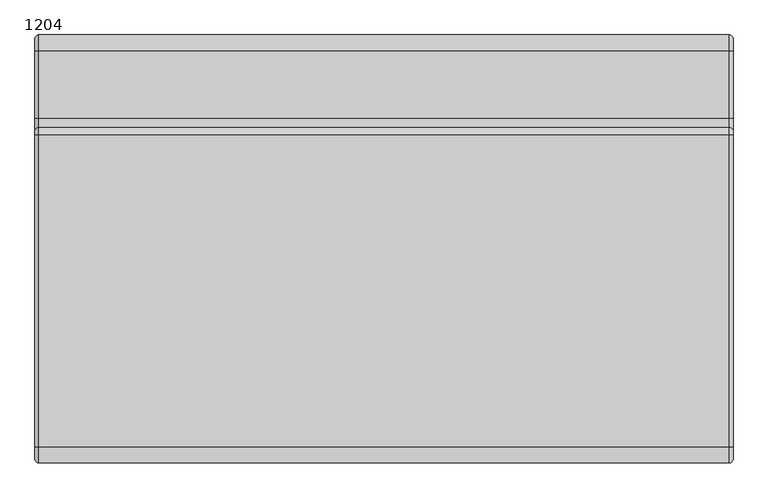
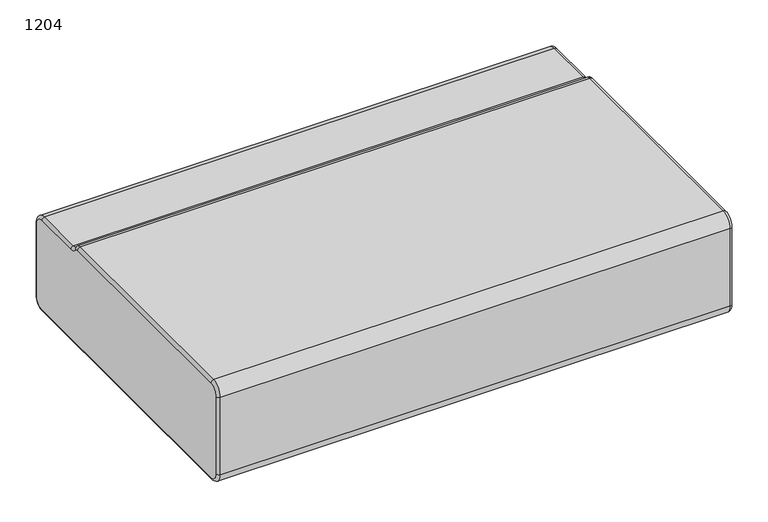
"""IFC4 building model written with IfcOpenShell, lengths in millimetres: furniture geometry, Laguna-Modular-Straight-ERG : 1204."""

from ifc_helpers import new_model, si_unit, point, frame, origin, place, context, project, spatial, polyline, circle_curve, ellipse_curve, trimmed, source, transform, mapped, element, save
from ifc_brep_helpers import plane_surface, cylinder_surface, revolved_surface, advanced_brep


def furniture_1204_9d9a843b(model_context):
    return source(origin(), model_context, "Body", "AdvancedBrep", [
        advanced_brep(
        [(-3545.1421763, 1208.7558502, 209.55), (-3545.1421763, 1227.8058502, 228.6), (-3545.1421763, 1227.8058502, 393.7), (-3545.1421763, 1208.7558502, 412.75), (-3545.1421763, 1100.3633388, 412.75), (-3545.1421763, 1081.0629451, 422.2976649), (-3545.1421763, 1074.6905694, 425.45), (-3545.1421763, 573.7558502, 425.45), (-3545.1421763, 554.7058502, 406.4), (-3545.1421763, 554.7058502, 228.6), (-3545.1421763, 573.755851, 209.55), (-4662.7421763, 573.7558502, 209.55), (-4662.7421763, 554.7058502, 228.6), (-4662.7421763, 554.7058502, 406.4), (-4662.7421763, 573.7558502, 425.45), (-4662.7421763, 1074.6905694, 425.45), (-4662.7421763, 1081.0629451, 422.2976649), (-4662.7421763, 1100.3633388, 412.75), (-4662.7421763, 1208.7558502, 412.75), (-4662.7421763, 1227.8058502, 393.7), (-4662.7421763, 1227.8058502, 228.6), (-4662.7421763, 1208.7558502, 209.55), (-3551.4921763, 1208.7558502, 203.2), (-3551.4921763, 1234.1558502, 228.6), (-3551.4921763, 1234.1558502, 393.7), (-3551.4921763, 1208.7558502, 419.1), (-3551.4921763, 1100.3633388, 419.1), (-3551.4921763, 1086.1103079, 426.1507973), (-3551.4921763, 1074.6905694, 431.8), (-3551.4921763, 573.7558502, 431.8), (-3551.4921763, 548.3558502, 406.4), (-3551.4921763, 548.3558502, 228.6), (-3551.4921763, 573.7558502, 203.2), (-4656.3921763, 573.7558502, 203.2), (-4656.3921763, 1208.7558502, 203.2), (-4656.3921763, 1234.1558502, 228.6), (-4656.3921763, 1234.1558502, 393.7), (-4656.3921763, 1208.7558502, 419.1), (-4656.3921763, 1100.3633388, 419.1), (-4656.3921763, 1086.1103079, 426.1507973), (-4656.3921763, 1074.6905694, 431.8), (-4656.3921763, 573.7558502, 431.8), (-4656.3921763, 548.3558502, 406.4), (-4656.3921763, 548.3558502, 228.6)],
        [
            (0, 1, circle_curve(frame((-3545.1421763, 1208.7558502, 228.6), z_axis=(1.0, 0.0, 0.0), x_axis=(0.0, 0.0, -1.0)), 19.05)),
            (1, 2),
            (2, 3, circle_curve(frame((-3545.1421763, 1208.7558502, 393.7), z_axis=(1.0, 0.0, 0.0), x_axis=(0.0, 1.0, 0.0)), 19.05)),
            (3, 4),
            (4, 5, circle_curve(frame((-3545.1421763, 1100.3633388, 437.0314921), z_axis=(-1.0, 0.0, 0.0), x_axis=(0.0, 0.0, -1.0)), 24.2814921)),
            (5, 6, circle_curve(frame((-3545.1421763, 1074.6905694, 417.4330241), z_axis=(1.0, 0.0, 0.0), x_axis=(0.0, 0.7948602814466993, 0.6067924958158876)), 8.0169759)),
            (6, 7),
            (7, 8, circle_curve(frame((-3545.1421763, 573.7558502, 406.4), z_axis=(1.0, 0.0, 0.0), x_axis=(0.0, 0.0, 1.0)), 19.05)),
            (8, 9),
            (9, 10, circle_curve(frame((-3545.1421763, 573.7558502, 228.6), z_axis=(1.0, 0.0, 0.0), x_axis=(0.0, -1.0, 0.0)), 19.05)),
            (10, 0),
            (11, 12, circle_curve(frame((-4662.7421763, 573.7558502, 228.6), z_axis=(-1.0, 0.0, 0.0), x_axis=(0.0, -1.0, 0.0)), 19.05)),
            (12, 13),
            (13, 14, circle_curve(frame((-4662.7421763, 573.7558502, 406.4), z_axis=(-1.0, 0.0, 0.0), x_axis=(0.0, 0.0, 1.0)), 19.05)),
            (14, 15),
            (15, 16, circle_curve(frame((-4662.7421763, 1074.6905694, 417.4330241), z_axis=(-1.0, 0.0, 0.0), x_axis=(0.0, 0.7948602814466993, 0.6067924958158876)), 8.0169759)),
            (16, 17, circle_curve(frame((-4662.7421763, 1100.3633388, 437.0314921), z_axis=(1.0, 0.0, 0.0), x_axis=(0.0, 0.0, -1.0)), 24.2814921)),
            (17, 18),
            (18, 19, circle_curve(frame((-4662.7421763, 1208.7558502, 393.7), z_axis=(-1.0, 0.0, 0.0), x_axis=(0.0, 1.0, 0.0)), 19.05)),
            (19, 20),
            (20, 21, circle_curve(frame((-4662.7421763, 1208.7558502, 228.6), z_axis=(-1.0, 0.0, 0.0), x_axis=(0.0, 0.0, -1.0)), 19.05)),
            (21, 11),
            (0, 22, circle_curve(frame((-3551.4921763, 1208.7558502, 209.55), z_axis=(0.0, 1.0, 0.0), x_axis=(0.0, 0.0, 1.0)), 6.35)),
            (22, 23, circle_curve(frame((-3551.4921763, 1208.7558502, 228.6), z_axis=(1.0, 0.0, 0.0), x_axis=(0.0, 0.0, -1.0)), 25.4)),
            (23, 1, circle_curve(frame((-3551.4921763, 1227.8058502, 228.6), z_axis=(0.0, 0.0, -1.0), x_axis=(0.0, -1.0, 0.0)), 6.35)),
            (23, 24),
            (24, 2, circle_curve(frame((-3551.4921763, 1227.8058502, 393.7), z_axis=(0.0, 0.0, -1.0), x_axis=(0.0, -1.0, 0.0)), 6.35)),
            (24, 25, circle_curve(frame((-3551.4921763, 1208.7558502, 393.7), z_axis=(1.0, 0.0, 0.0), x_axis=(0.0, 1.0, 0.0)), 25.4)),
            (25, 3, circle_curve(frame((-3551.4921763, 1208.7558502, 412.75), z_axis=(0.0, 1.0, 0.0), x_axis=(0.0, 0.0, -1.0)), 6.35)),
            (25, 26),
            (26, 4, circle_curve(frame((-3551.4921763, 1100.3633388, 412.75), z_axis=(0.0, 1.0, 0.0), x_axis=(0.0, 0.0, -1.0)), 6.35)),
            (26, 27, circle_curve(frame((-3551.4921763, 1100.3633388, 437.0314921), z_axis=(-1.0, 0.0, 0.0), x_axis=(0.0, 0.0, -1.0)), 17.9314921)),
            (27, 5, circle_curve(frame((-3551.4921763, 1081.0629451, 422.2976649), z_axis=(0.0, 0.6067924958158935, -0.7948602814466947), x_axis=(0.0, -0.7948602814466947, -0.6067924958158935)), 6.35)),
            (27, 28, circle_curve(frame((-3551.4921763, 1074.6905694, 417.4330241), z_axis=(1.0, 0.0, 0.0), x_axis=(0.0, 0.7948602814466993, 0.6067924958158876)), 14.3669759)),
            (28, 6, circle_curve(frame((-3551.4921763, 1074.6905694, 425.45), z_axis=(0.0, 1.0, 0.0), x_axis=(0.0, 0.0, -1.0)), 6.35)),
            (28, 29),
            (29, 7, circle_curve(frame((-3551.4921763, 573.7558502, 425.45), z_axis=(0.0, 1.0, 0.0), x_axis=(0.0, 0.0, -1.0)), 6.35)),
            (29, 30, circle_curve(frame((-3551.4921763, 573.7558502, 406.4), z_axis=(1.0, 0.0, 0.0), x_axis=(0.0, 0.0, 1.0)), 25.4)),
            (30, 8, circle_curve(frame((-3551.4921763, 554.7058502, 406.4), z_axis=(0.0, 0.0, 1.0), x_axis=(0.0, 1.0, 0.0)), 6.35)),
            (30, 31),
            (31, 9, circle_curve(frame((-3551.4921763, 554.7058502, 228.6), z_axis=(0.0, 0.0, 1.0), x_axis=(0.0, 1.0, 0.0)), 6.35)),
            (31, 32, circle_curve(frame((-3551.4921763, 573.7558502, 228.6), z_axis=(1.0, 0.0, 0.0), x_axis=(0.0, -1.0, 0.0)), 25.4)),
            (32, 10, circle_curve(frame((-3551.4921763, 573.7558502, 209.55), z_axis=(0.0, -1.0, 0.0), x_axis=(0.0, 0.0, 1.0)), 6.35)),
            (32, 22),
            (32, 33),
            (33, 34),
            (34, 22),
            (34, 35, circle_curve(frame((-4656.3921763, 1208.7558502, 228.6), z_axis=(1.0, 0.0, 0.0), x_axis=(0.0, 1.0, 0.0)), 25.4)),
            (35, 23),
            (35, 36),
            (36, 24),
            (36, 37, circle_curve(frame((-4656.3921763, 1208.7558502, 393.7), z_axis=(1.0, 0.0, 0.0), x_axis=(0.0, 1.0, 0.0)), 25.4)),
            (37, 25),
            (37, 38),
            (38, 26),
            (38, 39, circle_curve(frame((-4656.3921763, 1100.3633388, 437.0314921), z_axis=(-1.0, 0.0, 0.0), x_axis=(0.0, 1.0, 0.0)), 17.9314921)),
            (39, 27),
            (39, 40, circle_curve(frame((-4656.3921763, 1074.6905694, 417.4330241), z_axis=(1.0, 0.0, 0.0), x_axis=(0.0, 1.0, 0.0)), 14.3669759)),
            (40, 28),
            (40, 41),
            (41, 29),
            (41, 42, circle_curve(frame((-4656.3921763, 573.7558502, 406.4), z_axis=(1.0, 0.0, 0.0), x_axis=(0.0, 1.0, 0.0)), 25.4)),
            (42, 30),
            (42, 43),
            (43, 31),
            (43, 33, circle_curve(frame((-4656.3921763, 573.7558502, 228.6), z_axis=(1.0, 0.0, 0.0), x_axis=(0.0, 1.0, 0.0)), 25.4)),
            (43, 12, circle_curve(frame((-4656.3921763, 554.7058502, 228.6), z_axis=(0.0, 0.0, -1.0), x_axis=(1.0, 0.0, 0.0)), 6.35)),
            (11, 33, circle_curve(frame((-4656.3921763, 573.7558502, 209.55), z_axis=(0.0, -1.0, 0.0), x_axis=(1.0, 0.0, 0.0)), 6.35)),
            (21, 34, circle_curve(frame((-4656.3921763, 1208.7558502, 209.55), z_axis=(0.0, -1.0, 0.0), x_axis=(1.0, 0.0, 0.0)), 6.35)),
            (20, 35, circle_curve(frame((-4656.3921763, 1227.8058502, 228.6), z_axis=(0.0, 0.0, -1.0), x_axis=(1.0, 0.0, 0.0)), 6.35)),
            (19, 36, circle_curve(frame((-4656.3921763, 1227.8058502, 393.7), z_axis=(0.0, 0.0, -1.0), x_axis=(1.0, 0.0, 0.0)), 6.35)),
            (18, 37, circle_curve(frame((-4656.3921763, 1208.7558502, 412.75), z_axis=(0.0, 1.0, 0.0), x_axis=(1.0, 0.0, 0.0)), 6.35)),
            (17, 38, circle_curve(frame((-4656.3921763, 1100.3633388, 412.75), z_axis=(0.0, 1.0, 0.0), x_axis=(1.0, 0.0, 0.0)), 6.35)),
            (16, 39, circle_curve(frame((-4656.3921763, 1081.0629451, 422.2976649), z_axis=(0.0, 0.6067924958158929, -0.7948602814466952), x_axis=(1.0, 0.0, 0.0)), 6.35)),
            (15, 40, circle_curve(frame((-4656.3921763, 1074.6905694, 425.45), z_axis=(0.0, 1.0, 0.0), x_axis=(1.0, 0.0, 0.0)), 6.35)),
            (14, 41, circle_curve(frame((-4656.3921763, 573.7558502, 425.45), z_axis=(0.0, 1.0, 0.0), x_axis=(1.0, 0.0, 0.0)), 6.35)),
            (13, 42, circle_curve(frame((-4656.3921763, 554.7058502, 406.4), z_axis=(0.0, 0.0, 1.0), x_axis=(1.0, 0.0, 0.0)), 6.35)),
        ],
        [
            plane_surface(frame((-3545.1421763, 1208.7558502, 209.55), z_axis=(1.0, 0.0, 0.0), x_axis=(0.0, 1.0, 0.0))),
            plane_surface(frame((-4662.7421763, 587.7103097, 425.45), z_axis=(-1.0, 0.0, 0.0), x_axis=(0.0, 1.0, 0.0))),
            revolved_surface(trimmed(ellipse_curve(frame((-3551.4921763, 1208.7558502, 209.55), z_axis=(0.0, -1.0, 0.0), x_axis=(0.0, 0.0, 1.0)), 6.35, 6.35), [point((-3551.4921763, 1208.7558502, 203.2))], [point((-3545.1421763, 1208.7558502, 209.55))], True, "CARTESIAN"), (-3551.4921763, 1208.7558502, 228.6), (1.0, 0.0, 0.0)),
            cylinder_surface(frame((-3551.4921763, 1227.8058502, 228.6), z_axis=(0.0, 0.0, -1.0), x_axis=(0.0, -1.0, 0.0)), 6.35),
            revolved_surface(trimmed(ellipse_curve(frame((-3551.4921763, 1227.8058502, 393.7), z_axis=(0.0, 0.0, -1.0), x_axis=(0.0, -1.0, 0.0)), 6.35, 6.35), [point((-3551.4921763, 1234.1558502, 393.7))], [point((-3545.1421763, 1227.8058502, 393.7))], True, "CARTESIAN"), (-3551.4921763, 1208.7558502, 393.7), (1.0, 0.0, 0.0)),
            cylinder_surface(frame((-3551.4921763, 1208.7558502, 412.75), z_axis=(0.0, 1.0, 0.0), x_axis=(0.0, 0.0, -1.0)), 6.35),
            revolved_surface(trimmed(ellipse_curve(frame((-3551.4921763, 1100.3633388, 412.75), z_axis=(0.0, 1.0, 0.0), x_axis=(0.0, 0.0, -1.0)), 6.35, 6.35), [point((-3551.4921763, 1100.3633388, 419.1))], [point((-3545.1421763, 1100.3633388, 412.75))], True, "CARTESIAN"), (-3551.4921763, 1100.3633388, 437.0314921), (-1.0, 0.0, 0.0)),
            revolved_surface(trimmed(ellipse_curve(frame((-3551.4921763, 1081.0629451, 422.2976649), z_axis=(0.0, 0.6067924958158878, -0.7948602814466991), x_axis=(0.0, -0.7948602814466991, -0.6067924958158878)), 6.35, 6.35), [point((-3551.4921763, 1086.1103079, 426.1507973))], [point((-3545.1421763, 1081.0629451, 422.2976649))], True, "CARTESIAN"), (-3551.4921763, 1074.6905694, 417.4330241), (1.0, 0.0, 0.0)),
            cylinder_surface(frame((-3551.4921763, 1074.6905694, 425.45), z_axis=(0.0, 1.0, 0.0), x_axis=(0.0, 0.0, -1.0)), 6.35),
            revolved_surface(trimmed(ellipse_curve(frame((-3551.4921763, 573.7558502, 425.45), z_axis=(0.0, 1.0, 0.0), x_axis=(0.0, 0.0, -1.0)), 6.35, 6.35), [point((-3551.4921763, 573.7558502, 431.8))], [point((-3545.1421763, 573.7558502, 425.45))], True, "CARTESIAN"), (-3551.4921763, 573.7558502, 406.4), (1.0, 0.0, 0.0)),
            cylinder_surface(frame((-3551.4921763, 554.7058502, 406.4), z_axis=(0.0, 0.0, 1.0), x_axis=(0.0, 1.0, 0.0)), 6.35),
            revolved_surface(trimmed(ellipse_curve(frame((-3551.4921763, 554.7058502, 228.6), z_axis=(0.0, 0.0, 1.0), x_axis=(0.0, 1.0, 0.0)), 6.35, 6.35), [point((-3551.4921763, 548.3558502, 228.6))], [point((-3545.1421763, 554.7058502, 228.6))], True, "CARTESIAN"), (-3551.4921763, 573.7558502, 228.6), (1.0, 0.0, 0.0)),
            cylinder_surface(frame((-3551.4921763, 573.7558502, 209.55), z_axis=(0.0, -1.0, 0.0), x_axis=(0.0, 0.0, 1.0)), 6.35),
            plane_surface(frame((-3551.4921763, 573.7558502, 203.2), z_axis=(0.0, 0.0, -1.0), x_axis=(-1.0, 0.0, 0.0))),
            cylinder_surface(frame((-4656.3921763, 1208.7558502, 228.6), z_axis=(1.0, 0.0, 0.0), x_axis=(0.0, 1.0, 0.0)), 25.4),
            plane_surface(frame((-3551.4921763, 1234.1558502, 228.6), z_axis=(0.0, 1.0, 0.0), x_axis=(-1.0, 0.0, 0.0))),
            cylinder_surface(frame((-4656.3921763, 1208.7558502, 393.7), z_axis=(1.0, 0.0, 0.0), x_axis=(0.0, 1.0, 0.0)), 25.4),
            plane_surface(frame((-3551.4921763, 1208.7558502, 419.1), z_axis=(0.0, 0.0, 1.0), x_axis=(-1.0, 0.0, 0.0))),
            revolved_surface(polyline([(-4656.3921763, 1118.2948309, 437.0314921), (-3551.4921763, 1118.2948309, 437.0314921)]), (-4656.3921763, 1100.3633388, 437.0314921), (-1.0, 0.0, 0.0)),
            cylinder_surface(frame((-4656.3921763, 1074.6905694, 417.4330241), z_axis=(1.0, 0.0, 0.0), x_axis=(0.0, 1.0, 0.0)), 14.3669759),
            plane_surface(frame((-3551.4921763, 1074.6905694, 431.8), z_axis=(0.0, 0.0, 1.0), x_axis=(-1.0, 0.0, 0.0))),
            cylinder_surface(frame((-4656.3921763, 573.7558502, 406.4), z_axis=(1.0, 0.0, 0.0), x_axis=(0.0, 1.0, 0.0)), 25.4),
            plane_surface(frame((-3551.4921763, 548.3558502, 406.4), z_axis=(0.0, -1.0, 0.0), x_axis=(-1.0, 0.0, 0.0))),
            cylinder_surface(frame((-4656.3921763, 573.7558502, 228.6), z_axis=(1.0, 0.0, 0.0), x_axis=(0.0, 1.0, 0.0)), 25.4),
            revolved_surface(trimmed(ellipse_curve(frame((-4656.3921763, 554.7058502, 228.6), z_axis=(0.0, 0.0, 1.0), x_axis=(1.0, 0.0, 0.0)), 6.35, 6.35), [point((-4662.7421763, 554.7058502, 228.6))], [point((-4656.3921763, 548.3558502, 228.6))], True, "CARTESIAN"), (-4656.3921763, 573.7558502, 228.6), (1.0, 0.0, 0.0)),
            cylinder_surface(frame((-4656.3921763, 573.7558502, 209.55), z_axis=(0.0, -1.0, 0.0), x_axis=(1.0, 0.0, 0.0)), 6.35),
            revolved_surface(trimmed(ellipse_curve(frame((-4656.3921763, 1208.7558502, 209.55), z_axis=(0.0, -1.0, 0.0), x_axis=(1.0, 0.0, 0.0)), 6.35, 6.35), [point((-4662.7421763, 1208.7558502, 209.55))], [point((-4656.3921763, 1208.7558502, 203.2))], True, "CARTESIAN"), (-4656.3921763, 1208.7558502, 228.6), (1.0, 0.0, 0.0)),
            cylinder_surface(frame((-4656.3921763, 1227.8058502, 228.6), z_axis=(0.0, 0.0, -1.0), x_axis=(1.0, 0.0, 0.0)), 6.35),
            revolved_surface(trimmed(ellipse_curve(frame((-4656.3921763, 1227.8058502, 393.7), z_axis=(0.0, 0.0, -1.0), x_axis=(1.0, 0.0, 0.0)), 6.35, 6.35), [point((-4662.7421763, 1227.8058502, 393.7))], [point((-4656.3921763, 1234.1558502, 393.7))], True, "CARTESIAN"), (-4656.3921763, 1208.7558502, 393.7), (1.0, 0.0, 0.0)),
            cylinder_surface(frame((-4656.3921763, 1208.7558502, 412.75), z_axis=(0.0, 1.0, 0.0), x_axis=(1.0, 0.0, 0.0)), 6.35),
            revolved_surface(trimmed(ellipse_curve(frame((-4656.3921763, 1100.3633388, 412.75), z_axis=(0.0, 1.0, 0.0), x_axis=(1.0, 0.0, 0.0)), 6.35, 6.35), [point((-4662.7421763, 1100.3633388, 412.75))], [point((-4656.3921763, 1100.3633388, 419.1))], True, "CARTESIAN"), (-4656.3921763, 1100.3633388, 437.0314921), (-1.0, 0.0, 0.0)),
            revolved_surface(trimmed(ellipse_curve(frame((-4656.3921763, 1081.0629451, 422.2976649), z_axis=(0.0, 0.6067924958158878, -0.7948602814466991), x_axis=(1.0, 0.0, 0.0)), 6.35, 6.35), [point((-4662.7421763, 1081.0629451, 422.2976649))], [point((-4656.3921763, 1086.1103079, 426.1507973))], True, "CARTESIAN"), (-4656.3921763, 1074.6905694, 417.4330241), (1.0, 0.0, 0.0)),
            cylinder_surface(frame((-4656.3921763, 1074.6905694, 425.45), z_axis=(0.0, 1.0, 0.0), x_axis=(1.0, 0.0, 0.0)), 6.35),
            revolved_surface(trimmed(ellipse_curve(frame((-4656.3921763, 573.7558502, 425.45), z_axis=(0.0, 1.0, 0.0), x_axis=(1.0, 0.0, 0.0)), 6.35, 6.35), [point((-4662.7421763, 573.7558502, 425.45))], [point((-4656.3921763, 573.7558502, 431.8))], True, "CARTESIAN"), (-4656.3921763, 573.7558502, 406.4), (1.0, 0.0, 0.0)),
            cylinder_surface(frame((-4656.3921763, 554.7058502, 406.4), z_axis=(0.0, 0.0, 1.0), x_axis=(1.0, 0.0, 0.0)), 6.35),
        ],
        [
            (0, [[1, 2, 3, 4, 5, 6, 7, 8, 9, 10, 11]]),
            (1, [[12, 13, 14, 15, 16, 17, 18, 19, 20, 21, 22]]),
            (2, [[23, 24, 25, -1]]),
            (3, [[-25, 26, 27, -2]]),
            (4, [[-27, 28, 29, -3]]),
            (5, [[-29, 30, 31, -4]]),
            (6, [[-31, 32, 33, -5]]),
            (7, [[-33, 34, 35, -6]]),
            (8, [[-35, 36, 37, -7]]),
            (9, [[-37, 38, 39, -8]]),
            (10, [[-39, 40, 41, -9]]),
            (11, [[-41, 42, 43, -10]]),
            (12, [[-23, -11, -43, 44]]),
            (13, [[45, 46, 47, -44]]),
            (14, [[-47, 48, 49, -24]]),
            (15, [[-49, 50, 51, -26]]),
            (16, [[-51, 52, 53, -28]]),
            (17, [[-53, 54, 55, -30]]),
            (18, [[-55, 56, 57, -32]]),
            (19, [[-57, 58, 59, -34]]),
            (20, [[-59, 60, 61, -36]]),
            (21, [[-61, 62, 63, -38]]),
            (22, [[-63, 64, 65, -40]]),
            (23, [[-45, -42, -65, 66]]),
            (24, [[67, -12, 68, -66]]),
            (25, [[-68, -22, 69, -46]]),
            (26, [[-69, -21, 70, -48]]),
            (27, [[-70, -20, 71, -50]]),
            (28, [[-71, -19, 72, -52]]),
            (29, [[-72, -18, 73, -54]]),
            (30, [[-73, -17, 74, -56]]),
            (31, [[-74, -16, 75, -58]]),
            (32, [[-75, -15, 76, -60]]),
            (33, [[-76, -14, 77, -62]]),
            (34, [[-67, -64, -77, -13]]),
        ],
    ),
    ])


if __name__ == "__main__":
    model = new_model("IFC4")
    model_context = context("Model", 3, world=origin())
    ifc_project = project(units=[si_unit("LENGTHUNIT", "METRE", prefix="MILLI")], contexts=[model_context])
    site = spatial("IfcSite", under=ifc_project)
    building = spatial("IfcBuilding", under=site)
    placement = place(None, origin())
    furniture_1204_shape = furniture_1204_9d9a843b(model_context)
    element("IfcFurniture", 1, ObjectType="Laguna-Modular-Straight-ERG : 1204", at=placement, inside=building, context=model_context, shape_type="MappedRepresentation", body=[
        mapped(furniture_1204_shape, transform((0.0, 0.0, 0.0), x_axis=(1.0, 0.0, 0.0), y_axis=(0.0, 1.0, 0.0), z_axis=(0.0, 0.0, 1.0))),
    ])
    save(model, "model.ifc")
